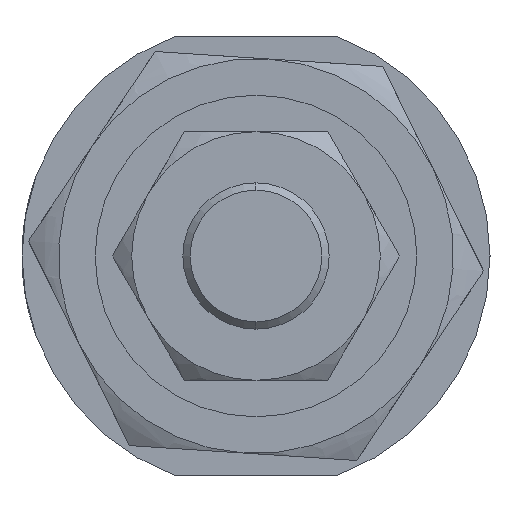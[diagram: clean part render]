
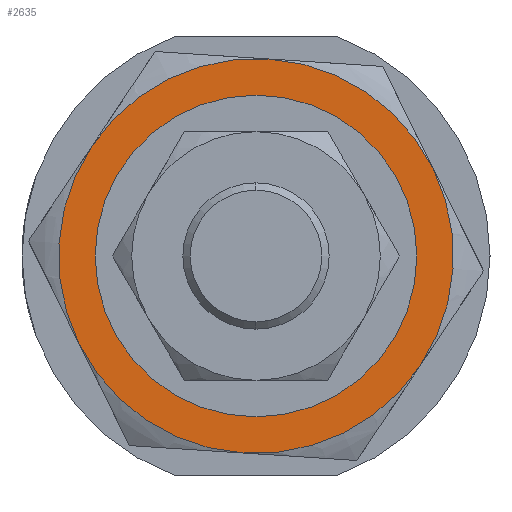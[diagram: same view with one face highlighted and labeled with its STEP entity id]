
A CAD part, left-side view. The second image highlights one B-rep face of the part: STEP entity #2635.
In plain terms, the highlighted planar face has unit normal (-1, 0, 0) as drawn and (0, 0, -1) by its records, which use the part's own axes.
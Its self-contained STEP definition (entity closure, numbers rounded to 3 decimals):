
#21 = VERTEX_POINT ( 'NONE', #2566 ) ;
#33 = CARTESIAN_POINT ( 'NONE',  ( -6.75, 11.691, -5. ) ) ;
#37 = PLANE ( 'NONE',  #3313 ) ;
#49 = DIRECTION ( 'NONE',  ( 1., 0., 0. ) ) ;
#59 = CARTESIAN_POINT ( 'NONE',  ( 6.75, 11.691, -5. ) ) ;
#83 = EDGE_LOOP ( 'NONE', ( #2411, #1398, #545, #3184, #482, #963 ) ) ;
#125 = AXIS2_PLACEMENT_3D ( 'NONE', #2971, #1909, #762 ) ;
#151 = DIRECTION ( 'NONE',  ( 1., 0., 0. ) ) ;
#207 = ORIENTED_EDGE ( 'NONE', *, *, #2898, .T. ) ;
#257 = EDGE_CURVE ( 'NONE', #1441, #2154, #3103, .T. ) ;
#331 = CIRCLE ( 'NONE', #416, 13.5 ) ;
#416 = AXIS2_PLACEMENT_3D ( 'NONE', #2638, #1378, #151 ) ;
#451 = DIRECTION ( 'NONE',  ( 0., 0., 1. ) ) ;
#462 = CARTESIAN_POINT ( 'NONE',  ( 0., 0., -5. ) ) ;
#480 = EDGE_CURVE ( 'NONE', #21, #1919, #2716, .T. ) ;
#482 = ORIENTED_EDGE ( 'NONE', *, *, #3360, .F. ) ;
#545 = ORIENTED_EDGE ( 'NONE', *, *, #1718, .F. ) ;
#554 = CARTESIAN_POINT ( 'NONE',  ( 13.5, 0., -5. ) ) ;
#560 = EDGE_CURVE ( 'NONE', #1901, #2410, #2346, .T. ) ;
#595 = EDGE_LOOP ( 'NONE', ( #1173, #207 ) ) ;
#710 = DIRECTION ( 'NONE',  ( 0., 0., 1. ) ) ;
#728 = DIRECTION ( 'NONE',  ( 0., 0., 1. ) ) ;
#762 = DIRECTION ( 'NONE',  ( 1., 0., 0. ) ) ;
#779 = AXIS2_PLACEMENT_3D ( 'NONE', #1273, #1563, #49 ) ;
#808 = DIRECTION ( 'NONE',  ( 1., 0., 0. ) ) ;
#893 = DIRECTION ( 'NONE',  ( 1., 0., 0. ) ) ;
#963 = ORIENTED_EDGE ( 'NONE', *, *, #1342, .F. ) ;
#986 = AXIS2_PLACEMENT_3D ( 'NONE', #2374, #728, #2723 ) ;
#1021 = CARTESIAN_POINT ( 'NONE',  ( 0., 0., -5. ) ) ;
#1107 = DIRECTION ( 'NONE',  ( 1., 0., 0. ) ) ;
#1173 = ORIENTED_EDGE ( 'NONE', *, *, #480, .T. ) ;
#1192 = CIRCLE ( 'NONE', #779, 10. ) ;
#1250 = CIRCLE ( 'NONE', #125, 13.5 ) ;
#1273 = CARTESIAN_POINT ( 'NONE',  ( 0., 0., -5. ) ) ;
#1342 = EDGE_CURVE ( 'NONE', #2410, #3125, #2149, .T. ) ;
#1378 = DIRECTION ( 'NONE',  ( 0., 0., 1. ) ) ;
#1398 = ORIENTED_EDGE ( 'NONE', *, *, #1989, .F. ) ;
#1441 = VERTEX_POINT ( 'NONE', #3109 ) ;
#1492 = DIRECTION ( 'NONE',  ( 0., 0., 1. ) ) ;
#1512 = AXIS2_PLACEMENT_3D ( 'NONE', #3260, #2340, #893 ) ;
#1563 = DIRECTION ( 'NONE',  ( 0., 0., 1. ) ) ;
#1718 = EDGE_CURVE ( 'NONE', #2154, #2152, #2111, .T. ) ;
#1807 = CARTESIAN_POINT ( 'NONE',  ( -6.75, -11.691, -5. ) ) ;
#1901 = VERTEX_POINT ( 'NONE', #554 ) ;
#1907 = FACE_OUTER_BOUND ( 'NONE', #83, .T. ) ;
#1909 = DIRECTION ( 'NONE',  ( 0., 0., 1. ) ) ;
#1919 = VERTEX_POINT ( 'NONE', #1925 ) ;
#1925 = CARTESIAN_POINT ( 'NONE',  ( -10., 0., -5. ) ) ;
#1989 = EDGE_CURVE ( 'NONE', #2152, #1901, #1250, .T. ) ;
#2111 = CIRCLE ( 'NONE', #986, 13.5 ) ;
#2112 = AXIS2_PLACEMENT_3D ( 'NONE', #462, #3270, #808 ) ;
#2149 = CIRCLE ( 'NONE', #2307, 13.5 ) ;
#2152 = VERTEX_POINT ( 'NONE', #3237 ) ;
#2154 = VERTEX_POINT ( 'NONE', #1807 ) ;
#2274 = CARTESIAN_POINT ( 'NONE',  ( 0., 0., -5. ) ) ;
#2307 = AXIS2_PLACEMENT_3D ( 'NONE', #1021, #710, #2414 ) ;
#2340 = DIRECTION ( 'NONE',  ( 0., 0., 1. ) ) ;
#2343 = DIRECTION ( 'NONE',  ( 1., 0., 0. ) ) ;
#2346 = CIRCLE ( 'NONE', #2112, 13.5 ) ;
#2357 = AXIS2_PLACEMENT_3D ( 'NONE', #2955, #451, #2343 ) ;
#2374 = CARTESIAN_POINT ( 'NONE',  ( 0., 0., -5. ) ) ;
#2410 = VERTEX_POINT ( 'NONE', #59 ) ;
#2411 = ORIENTED_EDGE ( 'NONE', *, *, #560, .F. ) ;
#2414 = DIRECTION ( 'NONE',  ( 1., 0., 0. ) ) ;
#2566 = CARTESIAN_POINT ( 'NONE',  ( 10., 0., -5. ) ) ;
#2635 = ADVANCED_FACE ( 'NONE', ( #3218, #1907 ), #37, .F. ) ;
#2638 = CARTESIAN_POINT ( 'NONE',  ( 0., 0., -5. ) ) ;
#2716 = CIRCLE ( 'NONE', #1512, 10. ) ;
#2723 = DIRECTION ( 'NONE',  ( 1., 0., 0. ) ) ;
#2898 = EDGE_CURVE ( 'NONE', #1919, #21, #1192, .T. ) ;
#2955 = CARTESIAN_POINT ( 'NONE',  ( 0., 0., -5. ) ) ;
#2971 = CARTESIAN_POINT ( 'NONE',  ( 0., 0., -5. ) ) ;
#3103 = CIRCLE ( 'NONE', #2357, 13.5 ) ;
#3109 = CARTESIAN_POINT ( 'NONE',  ( -13.5, 0., -5. ) ) ;
#3125 = VERTEX_POINT ( 'NONE', #33 ) ;
#3184 = ORIENTED_EDGE ( 'NONE', *, *, #257, .F. ) ;
#3218 = FACE_BOUND ( 'NONE', #595, .T. ) ;
#3237 = CARTESIAN_POINT ( 'NONE',  ( 6.75, -11.691, -5. ) ) ;
#3260 = CARTESIAN_POINT ( 'NONE',  ( 0., 0., -5. ) ) ;
#3270 = DIRECTION ( 'NONE',  ( 0., 0., 1. ) ) ;
#3313 = AXIS2_PLACEMENT_3D ( 'NONE', #2274, #1492, #1107 ) ;
#3360 = EDGE_CURVE ( 'NONE', #3125, #1441, #331, .T. ) ;
